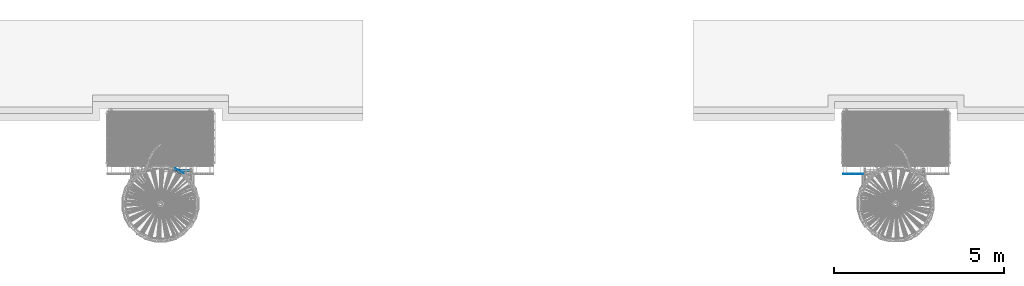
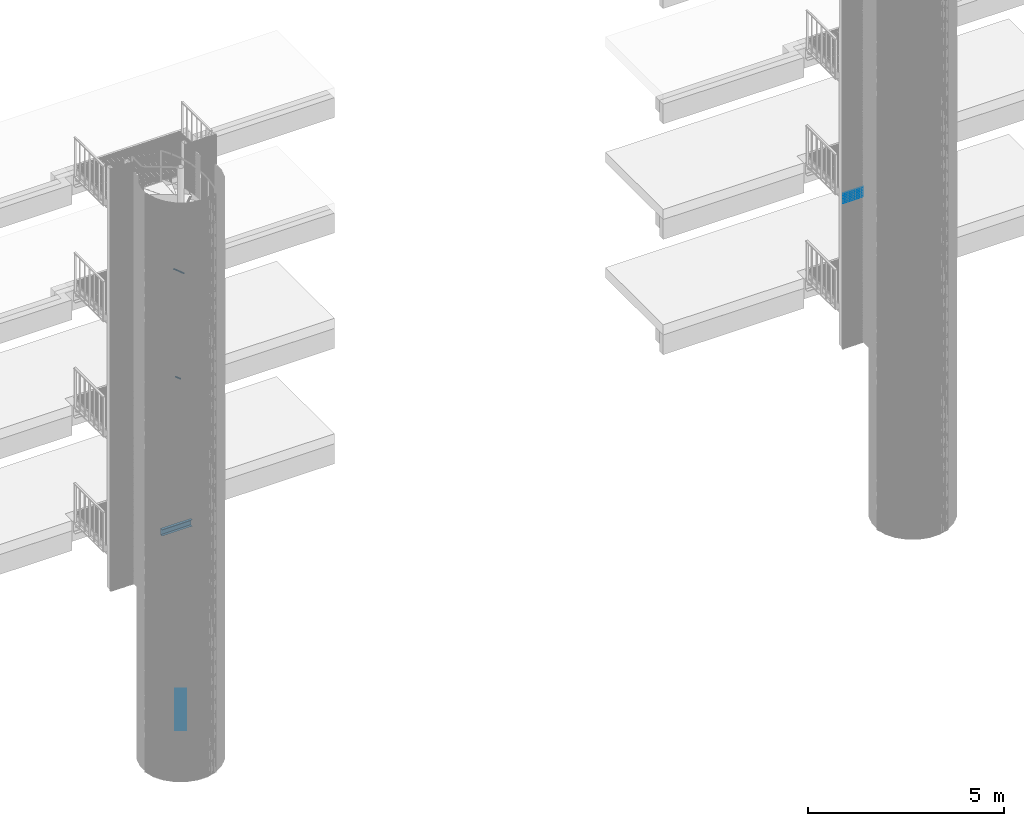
# One storey, part 321 of 1148: 52 beams, 2 members, 11 elements without a shape of their own.
"""IFC2X3 building model written with IfcOpenShell, lengths in millimetres."""

from ifc_helpers import new_model, entity, si_unit, frame, origin_with_axes, origin_2d_with_axis, place, context, subcontext, project, spatial, rectangle, u_section, extrude, material, type_object, element, aggregate, save


model = new_model("IFC2X3")

# Units and contexts
model_context = context("Model", 3, precision=1e-05, world=origin_with_axes())
body_context = subcontext(model_context, "Body", "Model", "MODEL_VIEW")
ifc_project = project(units=[si_unit("LENGTHUNIT", "METRE", prefix="MILLI"), si_unit("AREAUNIT", "SQUARE_METRE"), si_unit("VOLUMEUNIT", "CUBIC_METRE"), si_unit("MASSUNIT", "GRAM", prefix="KILO"), si_unit("TIMEUNIT", "SECOND"), si_unit("PLANEANGLEUNIT", "RADIAN"), si_unit("SOLIDANGLEUNIT", "STERADIAN"), si_unit("THERMODYNAMICTEMPERATUREUNIT", "DEGREE_CELSIUS"), si_unit("LUMINOUSINTENSITYUNIT", "LUMEN")], contexts=[model_context])

# Site, building, storey
site_placement = place(None, origin_with_axes())
site = spatial("IfcSite", under=ifc_project, at=site_placement, Name="Undefined", CompositionType="ELEMENT")
building_placement = place(site_placement, origin_with_axes())
building = spatial("IfcBuilding", under=site, at=building_placement, Name="Undefined", CompositionType="ELEMENT")
storey_placement = place(building_placement, origin_with_axes())
storey = spatial("IfcBuildingStorey", under=building, at=storey_placement, Name="Undefined", CompositionType="ELEMENT", Elevation=0.0)

# Assembly, beam
assembly_1_placement = place(storey_placement, origin_with_axes())
assembly_1 = element("IfcElementAssembly", 1, at=assembly_1_placement, inside=storey, AssemblyPlace="NOTDEFINED", PredefinedType="NOTDEFINED")
ifc_material_1 = material(Name="STEEL/S235JR")
beam_type_1 = type_object("IfcBeamType", Name="PL2*10", PredefinedType="NOTDEFINED")
beam_1_placement = place(assembly_1_placement, frame((20647.930410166, 876.014689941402, 10004.998), z_axis=(0.0, -1.0, 0.0), x_axis=(-1.0, 0.0, 0.0)))
beam_1 = element("IfcBeam", 2, at=beam_1_placement, type_object=beam_type_1, material=ifc_material_1, Name="ENTRETOISE", context=body_context, shape_type="SweptSolid", body=[
    extrude(rectangle(XDim=2.0, YDim=10.0, at=origin_2d_with_axis()), frame((596.0, 0.0, 0.0), z_axis=(-1.0, 0.0, 0.0), x_axis=(0.0, -1.0, 0.0)), (0.0, 0.0, 1.0), 596.0),
])
aggregate(assembly_1, [beam_1])

assembly_2_placement = place(storey_placement, origin_with_axes())
assembly_2 = element("IfcElementAssembly", 3, at=assembly_2_placement, inside=storey, AssemblyPlace="NOTDEFINED", PredefinedType="NOTDEFINED")
beam_2_placement = place(assembly_2_placement, frame((20647.930410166, 876.014689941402, 9954.998), z_axis=(0.0, -1.0, 0.0), x_axis=(-1.0, 0.0, 0.0)))
beam_2 = element("IfcBeam", 4, at=beam_2_placement, type_object=beam_type_1, material=ifc_material_1, Name="ENTRETOISE", context=body_context, shape_type="SweptSolid", body=[
    extrude(rectangle(XDim=2.0, YDim=10.0, at=origin_2d_with_axis()), frame((596.0, 0.0, 0.0), z_axis=(-1.0, 0.0, 0.0), x_axis=(0.0, -1.0, 0.0)), (0.0, 0.0, 1.0), 596.0),
])
aggregate(assembly_2, [beam_2])

assembly_3_placement = place(storey_placement, origin_with_axes())
assembly_3 = element("IfcElementAssembly", 5, at=assembly_3_placement, inside=storey, AssemblyPlace="NOTDEFINED", PredefinedType="NOTDEFINED")
beam_3_placement = place(assembly_3_placement, frame((20647.930410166, 876.014689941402, 9904.998), z_axis=(0.0, -1.0, 0.0), x_axis=(-1.0, 0.0, 0.0)))
beam_3 = element("IfcBeam", 6, at=beam_3_placement, type_object=beam_type_1, material=ifc_material_1, Name="ENTRETOISE", context=body_context, shape_type="SweptSolid", body=[
    extrude(rectangle(XDim=2.0, YDim=10.0, at=origin_2d_with_axis()), frame((596.0, 0.0, 0.0), z_axis=(-1.0, 0.0, 0.0), x_axis=(0.0, -1.0, 0.0)), (0.0, 0.0, 1.0), 596.0),
])
aggregate(assembly_3, [beam_3])

assembly_4_placement = place(storey_placement, origin_with_axes())
assembly_4 = element("IfcElementAssembly", 7, at=assembly_4_placement, inside=storey, AssemblyPlace="NOTDEFINED", PredefinedType="NOTDEFINED")
beam_4_placement = place(assembly_4_placement, frame((20647.930410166, 876.014689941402, 9854.998), z_axis=(0.0, -1.0, 0.0), x_axis=(-1.0, 0.0, 0.0)))
beam_4 = element("IfcBeam", 8, at=beam_4_placement, type_object=beam_type_1, material=ifc_material_1, Name="ENTRETOISE", context=body_context, shape_type="SweptSolid", body=[
    extrude(rectangle(XDim=2.0, YDim=10.0, at=origin_2d_with_axis()), frame((596.0, 0.0, 0.0), z_axis=(-1.0, 0.0, 0.0), x_axis=(0.0, -1.0, 0.0)), (0.0, 0.0, 1.0), 596.0),
])
aggregate(assembly_4, [beam_4])

assembly_5_placement = place(storey_placement, origin_with_axes())
assembly_5 = element("IfcElementAssembly", 9, at=assembly_5_placement, inside=storey, AssemblyPlace="NOTDEFINED", PredefinedType="NOTDEFINED")
beam_5_placement = place(assembly_5_placement, frame((20647.930410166, 876.014689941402, 9804.998), z_axis=(0.0, -1.0, 0.0), x_axis=(-1.0, 0.0, 0.0)))
beam_5 = element("IfcBeam", 10, at=beam_5_placement, type_object=beam_type_1, material=ifc_material_1, Name="ENTRETOISE", context=body_context, shape_type="SweptSolid", body=[
    extrude(rectangle(XDim=2.0, YDim=10.0, at=origin_2d_with_axis()), frame((596.0, 0.0, 0.0), z_axis=(-1.0, 0.0, 0.0), x_axis=(0.0, -1.0, 0.0)), (0.0, 0.0, 1.0), 596.0),
])
aggregate(assembly_5, [beam_5])

assembly_6_placement = place(storey_placement, origin_with_axes())
assembly_6 = element("IfcElementAssembly", 11, at=assembly_6_placement, inside=storey, AssemblyPlace="NOTDEFINED", PredefinedType="NOTDEFINED")
beam_6_placement = place(assembly_6_placement, frame((20647.930410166, 876.014689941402, 9754.998), z_axis=(0.0, -1.0, 0.0), x_axis=(-1.0, 0.0, 0.0)))
beam_6 = element("IfcBeam", 12, at=beam_6_placement, type_object=beam_type_1, material=ifc_material_1, Name="ENTRETOISE", context=body_context, shape_type="SweptSolid", body=[
    extrude(rectangle(XDim=2.0, YDim=10.0, at=origin_2d_with_axis()), frame((596.0, 0.0, 0.0), z_axis=(-1.0, 0.0, 0.0), x_axis=(0.0, -1.0, 0.0)), (0.0, 0.0, 1.0), 596.0),
])
aggregate(assembly_6, [beam_6])

assembly_7_placement = place(storey_placement, origin_with_axes())
assembly_7 = element("IfcElementAssembly", 13, at=assembly_7_placement, inside=storey, AssemblyPlace="NOTDEFINED", PredefinedType="NOTDEFINED")
beam_7_placement = place(assembly_7_placement, frame((20647.930410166, 876.014689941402, 9704.998), z_axis=(0.0, -1.0, 0.0), x_axis=(-1.0, 0.0, 0.0)))
beam_7 = element("IfcBeam", 14, at=beam_7_placement, type_object=beam_type_1, material=ifc_material_1, Name="ENTRETOISE", context=body_context, shape_type="SweptSolid", body=[
    extrude(rectangle(XDim=2.0, YDim=10.0, at=origin_2d_with_axis()), frame((596.0, 0.0, 0.0), z_axis=(-1.0, 0.0, 0.0), x_axis=(0.0, -1.0, 0.0)), (0.0, 0.0, 1.0), 596.0),
])
aggregate(assembly_7, [beam_7])

# Assembly, beams
assembly_8_placement = place(storey_placement, origin_with_axes())
assembly_8 = element("IfcElementAssembly", 15, at=assembly_8_placement, inside=storey, Name="BORDURE", AssemblyPlace="NOTDEFINED", PredefinedType="NOTDEFINED")
beam_8_placement = place(assembly_8_placement, frame((676.248044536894, 895.303964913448, 1320.0), z_axis=(0.49999999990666, 0.866025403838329, 0.0), x_axis=(-0.866025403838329, 0.499999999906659, 0.0)))
beam_8 = element("IfcBeam", 16, at=beam_8_placement, type_object=beam_type_1, material=ifc_material_1, Name="ENTRETOISE", context=body_context, shape_type="SweptSolid", body=[
    extrude(rectangle(XDim=2.0, YDim=10.0, at=origin_2d_with_axis()), frame((275.999999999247, 9.09494701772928e-13, 1.53210777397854e-14), z_axis=(-1.0, 0.0, 0.0), x_axis=(0.0, -1.0, 0.0)), (0.0, 0.0, 1.0), 276.0),
])
beam_9_placement = place(assembly_8_placement, frame((676.248044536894, 895.303964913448, 1290.0), z_axis=(0.49999999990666, 0.866025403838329, 0.0), x_axis=(-0.866025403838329, 0.499999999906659, 0.0)))
beam_9 = element("IfcBeam", 17, at=beam_9_placement, type_object=beam_type_1, material=ifc_material_1, Name="ENTRETOISE", context=body_context, shape_type="SweptSolid", body=[
    extrude(rectangle(XDim=2.0, YDim=10.0, at=origin_2d_with_axis()), frame((275.999999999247, 9.09494701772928e-13, 1.53210777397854e-14), z_axis=(-1.0, 0.0, 0.0), x_axis=(0.0, -1.0, 0.0)), (0.0, 0.0, 1.0), 276.0),
])
beam_10_placement = place(assembly_8_placement, frame((676.248044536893, 895.303964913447, 1260.0), z_axis=(0.49999999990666, 0.866025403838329, 0.0), x_axis=(-0.866025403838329, 0.499999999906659, 0.0)))
beam_10 = element("IfcBeam", 18, at=beam_10_placement, type_object=beam_type_1, material=ifc_material_1, Name="ENTRETOISE", context=body_context, shape_type="SweptSolid", body=[
    extrude(rectangle(XDim=2.0, YDim=10.0, at=origin_2d_with_axis()), frame((275.999999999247, 9.09494701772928e-13, 1.53210777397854e-14), z_axis=(-1.0, 0.0, 0.0), x_axis=(0.0, -1.0, 0.0)), (0.0, 0.0, 1.0), 276.0),
])
beam_11_placement = place(assembly_8_placement, frame((676.248044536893, 895.303964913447, 1230.0), z_axis=(0.49999999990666, 0.866025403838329, 0.0), x_axis=(-0.866025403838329, 0.499999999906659, 0.0)))
beam_11 = element("IfcBeam", 19, at=beam_11_placement, type_object=beam_type_1, material=ifc_material_1, Name="ENTRETOISE", context=body_context, shape_type="SweptSolid", body=[
    extrude(rectangle(XDim=2.0, YDim=10.0, at=origin_2d_with_axis()), frame((275.999999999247, 9.09494701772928e-13, 1.53210777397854e-14), z_axis=(-1.0, 0.0, 0.0), x_axis=(0.0, -1.0, 0.0)), (0.0, 0.0, 1.0), 276.0),
])
beam_12_placement = place(assembly_8_placement, frame((676.248044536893, 895.303964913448, 1200.0), z_axis=(0.49999999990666, 0.866025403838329, 0.0), x_axis=(-0.866025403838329, 0.499999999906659, 0.0)))
beam_12 = element("IfcBeam", 20, at=beam_12_placement, type_object=beam_type_1, material=ifc_material_1, Name="ENTRETOISE", context=body_context, shape_type="SweptSolid", body=[
    extrude(rectangle(XDim=2.0, YDim=10.0, at=origin_2d_with_axis()), frame((275.999999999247, 9.09494701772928e-13, 1.53210777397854e-14), z_axis=(-1.0, 0.0, 0.0), x_axis=(0.0, -1.0, 0.0)), (0.0, 0.0, 1.0), 276.0),
])
beam_13_placement = place(assembly_8_placement, frame((676.248044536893, 895.303964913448, 1170.0), z_axis=(0.49999999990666, 0.866025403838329, 0.0), x_axis=(-0.866025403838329, 0.499999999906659, 0.0)))
beam_13 = element("IfcBeam", 21, at=beam_13_placement, type_object=beam_type_1, material=ifc_material_1, Name="ENTRETOISE", context=body_context, shape_type="SweptSolid", body=[
    extrude(rectangle(XDim=2.0, YDim=10.0, at=origin_2d_with_axis()), frame((275.999999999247, 9.09494701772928e-13, 1.53210777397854e-14), z_axis=(-1.0, 0.0, 0.0), x_axis=(0.0, -1.0, 0.0)), (0.0, 0.0, 1.0), 276.0),
])
beam_14_placement = place(assembly_8_placement, frame((676.248044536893, 895.303964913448, 1140.0), z_axis=(0.49999999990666, 0.866025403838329, 0.0), x_axis=(-0.866025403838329, 0.499999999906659, 0.0)))
beam_14 = element("IfcBeam", 22, at=beam_14_placement, type_object=beam_type_1, material=ifc_material_1, Name="ENTRETOISE", context=body_context, shape_type="SweptSolid", body=[
    extrude(rectangle(XDim=2.0, YDim=10.0, at=origin_2d_with_axis()), frame((275.999999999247, 9.09494701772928e-13, 1.53210777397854e-14), z_axis=(-1.0, 0.0, 0.0), x_axis=(0.0, -1.0, 0.0)), (0.0, 0.0, 1.0), 276.0),
])
beam_15_placement = place(assembly_8_placement, frame((676.248044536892, 895.303964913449, 719.999999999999), z_axis=(0.49999999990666, 0.866025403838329, 0.0), x_axis=(-0.866025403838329, 0.499999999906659, 0.0)))
beam_15 = element("IfcBeam", 23, at=beam_15_placement, type_object=beam_type_1, material=ifc_material_1, Name="ENTRETOISE", context=body_context, shape_type="SweptSolid", body=[
    extrude(rectangle(XDim=2.0, YDim=10.0, at=origin_2d_with_axis()), frame((275.999999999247, 9.09494701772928e-13, 1.53210777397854e-14), z_axis=(-1.0, 0.0, 0.0), x_axis=(0.0, -1.0, 0.0)), (0.0, 0.0, 1.0), 276.0),
])
beam_16_placement = place(assembly_8_placement, frame((676.248044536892, 895.303964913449, 689.999999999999), z_axis=(0.49999999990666, 0.866025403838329, 0.0), x_axis=(-0.866025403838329, 0.499999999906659, 0.0)))
beam_16 = element("IfcBeam", 24, at=beam_16_placement, type_object=beam_type_1, material=ifc_material_1, Name="ENTRETOISE", context=body_context, shape_type="SweptSolid", body=[
    extrude(rectangle(XDim=2.0, YDim=10.0, at=origin_2d_with_axis()), frame((275.999999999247, 9.09494701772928e-13, 1.53210777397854e-14), z_axis=(-1.0, 0.0, 0.0), x_axis=(0.0, -1.0, 0.0)), (0.0, 0.0, 1.0), 276.0),
])
beam_17_placement = place(assembly_8_placement, frame((676.248044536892, 895.303964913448, 749.999999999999), z_axis=(0.49999999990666, 0.866025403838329, 0.0), x_axis=(-0.866025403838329, 0.499999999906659, 0.0)))
beam_17 = element("IfcBeam", 25, at=beam_17_placement, type_object=beam_type_1, material=ifc_material_1, Name="ENTRETOISE", context=body_context, shape_type="SweptSolid", body=[
    extrude(rectangle(XDim=2.0, YDim=10.0, at=origin_2d_with_axis()), frame((275.999999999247, 9.09494701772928e-13, 1.53210777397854e-14), z_axis=(-1.0, 0.0, 0.0), x_axis=(0.0, -1.0, 0.0)), (0.0, 0.0, 1.0), 276.0),
])
beam_18_placement = place(assembly_8_placement, frame((676.248044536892, 895.303964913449, 659.999999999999), z_axis=(0.49999999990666, 0.866025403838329, 0.0), x_axis=(-0.866025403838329, 0.499999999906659, 0.0)))
beam_18 = element("IfcBeam", 26, at=beam_18_placement, type_object=beam_type_1, material=ifc_material_1, Name="ENTRETOISE", context=body_context, shape_type="SweptSolid", body=[
    extrude(rectangle(XDim=2.0, YDim=10.0, at=origin_2d_with_axis()), frame((275.999999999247, 9.09494701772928e-13, 1.53210777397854e-14), z_axis=(-1.0, 0.0, 0.0), x_axis=(0.0, -1.0, 0.0)), (0.0, 0.0, 1.0), 276.0),
])
beam_19_placement = place(assembly_8_placement, frame((676.248044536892, 895.303964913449, 629.999999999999), z_axis=(0.49999999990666, 0.866025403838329, 0.0), x_axis=(-0.866025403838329, 0.499999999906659, 0.0)))
beam_19 = element("IfcBeam", 27, at=beam_19_placement, type_object=beam_type_1, material=ifc_material_1, Name="ENTRETOISE", context=body_context, shape_type="SweptSolid", body=[
    extrude(rectangle(XDim=2.0, YDim=10.0, at=origin_2d_with_axis()), frame((275.999999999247, 9.09494701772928e-13, 1.53210777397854e-14), z_axis=(-1.0, 0.0, 0.0), x_axis=(0.0, -1.0, 0.0)), (0.0, 0.0, 1.0), 276.0),
])
beam_20_placement = place(assembly_8_placement, frame((676.248044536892, 895.303964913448, 779.999999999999), z_axis=(0.49999999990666, 0.866025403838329, 0.0), x_axis=(-0.866025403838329, 0.499999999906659, 0.0)))
beam_20 = element("IfcBeam", 28, at=beam_20_placement, type_object=beam_type_1, material=ifc_material_1, Name="ENTRETOISE", context=body_context, shape_type="SweptSolid", body=[
    extrude(rectangle(XDim=2.0, YDim=10.0, at=origin_2d_with_axis()), frame((275.999999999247, 9.09494701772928e-13, 1.53210777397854e-14), z_axis=(-1.0, 0.0, 0.0), x_axis=(0.0, -1.0, 0.0)), (0.0, 0.0, 1.0), 276.0),
])
beam_21_placement = place(assembly_8_placement, frame((676.248044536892, 895.303964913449, 599.999999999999), z_axis=(0.49999999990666, 0.866025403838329, 0.0), x_axis=(-0.866025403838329, 0.499999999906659, 0.0)))
beam_21 = element("IfcBeam", 29, at=beam_21_placement, type_object=beam_type_1, material=ifc_material_1, Name="ENTRETOISE", context=body_context, shape_type="SweptSolid", body=[
    extrude(rectangle(XDim=2.0, YDim=10.0, at=origin_2d_with_axis()), frame((275.999999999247, 9.09494701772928e-13, 1.53210777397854e-14), z_axis=(-1.0, 0.0, 0.0), x_axis=(0.0, -1.0, 0.0)), (0.0, 0.0, 1.0), 276.0),
])
beam_22_placement = place(assembly_8_placement, frame((676.248044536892, 895.303964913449, 809.999999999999), z_axis=(0.49999999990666, 0.866025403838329, 0.0), x_axis=(-0.866025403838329, 0.499999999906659, 0.0)))
beam_22 = element("IfcBeam", 30, at=beam_22_placement, type_object=beam_type_1, material=ifc_material_1, Name="ENTRETOISE", context=body_context, shape_type="SweptSolid", body=[
    extrude(rectangle(XDim=2.0, YDim=10.0, at=origin_2d_with_axis()), frame((275.999999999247, 9.09494701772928e-13, 1.53210777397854e-14), z_axis=(-1.0, 0.0, 0.0), x_axis=(0.0, -1.0, 0.0)), (0.0, 0.0, 1.0), 276.0),
])
beam_23_placement = place(assembly_8_placement, frame((676.248044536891, 895.303964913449, 569.999999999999), z_axis=(0.49999999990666, 0.866025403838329, 0.0), x_axis=(-0.866025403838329, 0.499999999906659, 0.0)))
beam_23 = element("IfcBeam", 31, at=beam_23_placement, type_object=beam_type_1, material=ifc_material_1, Name="ENTRETOISE", context=body_context, shape_type="SweptSolid", body=[
    extrude(rectangle(XDim=2.0, YDim=10.0, at=origin_2d_with_axis()), frame((275.999999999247, 9.09494701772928e-13, 1.53210777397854e-14), z_axis=(-1.0, 0.0, 0.0), x_axis=(0.0, -1.0, 0.0)), (0.0, 0.0, 1.0), 276.0),
])
beam_24_placement = place(assembly_8_placement, frame((676.248044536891, 895.303964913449, 539.999999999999), z_axis=(0.49999999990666, 0.866025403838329, 0.0), x_axis=(-0.866025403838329, 0.499999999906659, 0.0)))
beam_24 = element("IfcBeam", 32, at=beam_24_placement, type_object=beam_type_1, material=ifc_material_1, Name="ENTRETOISE", context=body_context, shape_type="SweptSolid", body=[
    extrude(rectangle(XDim=2.0, YDim=10.0, at=origin_2d_with_axis()), frame((275.999999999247, 9.09494701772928e-13, 1.53210777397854e-14), z_axis=(-1.0, 0.0, 0.0), x_axis=(0.0, -1.0, 0.0)), (0.0, 0.0, 1.0), 276.0),
])
beam_25_placement = place(assembly_8_placement, frame((676.248044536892, 895.303964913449, 839.999999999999), z_axis=(0.49999999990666, 0.866025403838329, 0.0), x_axis=(-0.866025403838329, 0.499999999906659, 0.0)))
beam_25 = element("IfcBeam", 33, at=beam_25_placement, type_object=beam_type_1, material=ifc_material_1, Name="ENTRETOISE", context=body_context, shape_type="SweptSolid", body=[
    extrude(rectangle(XDim=2.0, YDim=10.0, at=origin_2d_with_axis()), frame((275.999999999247, 9.09494701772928e-13, 1.53210777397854e-14), z_axis=(-1.0, 0.0, 0.0), x_axis=(0.0, -1.0, 0.0)), (0.0, 0.0, 1.0), 276.0),
])
beam_26_placement = place(assembly_8_placement, frame((676.248044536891, 895.303964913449, 509.999999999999), z_axis=(0.49999999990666, 0.866025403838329, 0.0), x_axis=(-0.866025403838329, 0.499999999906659, 0.0)))
beam_26 = element("IfcBeam", 34, at=beam_26_placement, type_object=beam_type_1, material=ifc_material_1, Name="ENTRETOISE", context=body_context, shape_type="SweptSolid", body=[
    extrude(rectangle(XDim=2.0, YDim=10.0, at=origin_2d_with_axis()), frame((275.999999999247, 9.09494701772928e-13, 1.53210777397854e-14), z_axis=(-1.0, 0.0, 0.0), x_axis=(0.0, -1.0, 0.0)), (0.0, 0.0, 1.0), 276.0),
])
beam_27_placement = place(assembly_8_placement, frame((676.248044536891, 895.303964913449, 479.999999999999), z_axis=(0.49999999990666, 0.866025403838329, 0.0), x_axis=(-0.866025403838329, 0.499999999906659, 0.0)))
beam_27 = element("IfcBeam", 35, at=beam_27_placement, type_object=beam_type_1, material=ifc_material_1, Name="ENTRETOISE", context=body_context, shape_type="SweptSolid", body=[
    extrude(rectangle(XDim=2.0, YDim=10.0, at=origin_2d_with_axis()), frame((275.999999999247, 9.09494701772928e-13, 1.53210777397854e-14), z_axis=(-1.0, 0.0, 0.0), x_axis=(0.0, -1.0, 0.0)), (0.0, 0.0, 1.0), 276.0),
])
beam_28_placement = place(assembly_8_placement, frame((676.248044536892, 895.303964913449, 869.999999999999), z_axis=(0.49999999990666, 0.866025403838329, 0.0), x_axis=(-0.866025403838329, 0.499999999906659, 0.0)))
beam_28 = element("IfcBeam", 36, at=beam_28_placement, type_object=beam_type_1, material=ifc_material_1, Name="ENTRETOISE", context=body_context, shape_type="SweptSolid", body=[
    extrude(rectangle(XDim=2.0, YDim=10.0, at=origin_2d_with_axis()), frame((275.999999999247, 9.09494701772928e-13, 1.53210777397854e-14), z_axis=(-1.0, 0.0, 0.0), x_axis=(0.0, -1.0, 0.0)), (0.0, 0.0, 1.0), 276.0),
])
beam_29_placement = place(assembly_8_placement, frame((676.248044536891, 895.303964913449, 449.999999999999), z_axis=(0.49999999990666, 0.866025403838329, 0.0), x_axis=(-0.866025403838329, 0.499999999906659, 0.0)))
beam_29 = element("IfcBeam", 37, at=beam_29_placement, type_object=beam_type_1, material=ifc_material_1, Name="ENTRETOISE", context=body_context, shape_type="SweptSolid", body=[
    extrude(rectangle(XDim=2.0, YDim=10.0, at=origin_2d_with_axis()), frame((275.999999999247, 9.09494701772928e-13, 1.53210777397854e-14), z_axis=(-1.0, 0.0, 0.0), x_axis=(0.0, -1.0, 0.0)), (0.0, 0.0, 1.0), 276.0),
])
beam_30_placement = place(assembly_8_placement, frame((676.248044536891, 895.303964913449, 419.999999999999), z_axis=(0.49999999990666, 0.866025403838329, 0.0), x_axis=(-0.866025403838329, 0.499999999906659, 0.0)))
beam_30 = element("IfcBeam", 38, at=beam_30_placement, type_object=beam_type_1, material=ifc_material_1, Name="ENTRETOISE", context=body_context, shape_type="SweptSolid", body=[
    extrude(rectangle(XDim=2.0, YDim=10.0, at=origin_2d_with_axis()), frame((275.999999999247, 9.09494701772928e-13, 1.53210777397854e-14), z_axis=(-1.0, 0.0, 0.0), x_axis=(0.0, -1.0, 0.0)), (0.0, 0.0, 1.0), 276.0),
])
beam_31_placement = place(assembly_8_placement, frame((676.248044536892, 895.303964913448, 899.999999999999), z_axis=(0.49999999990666, 0.866025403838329, 0.0), x_axis=(-0.866025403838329, 0.499999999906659, 0.0)))
beam_31 = element("IfcBeam", 39, at=beam_31_placement, type_object=beam_type_1, material=ifc_material_1, Name="ENTRETOISE", context=body_context, shape_type="SweptSolid", body=[
    extrude(rectangle(XDim=2.0, YDim=10.0, at=origin_2d_with_axis()), frame((275.999999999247, 9.09494701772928e-13, 1.53210777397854e-14), z_axis=(-1.0, 0.0, 0.0), x_axis=(0.0, -1.0, 0.0)), (0.0, 0.0, 1.0), 276.0),
])
beam_32_placement = place(assembly_8_placement, frame((676.248044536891, 895.30396491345, 389.999999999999), z_axis=(0.49999999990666, 0.866025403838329, 0.0), x_axis=(-0.866025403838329, 0.499999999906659, 0.0)))
beam_32 = element("IfcBeam", 40, at=beam_32_placement, type_object=beam_type_1, material=ifc_material_1, Name="ENTRETOISE", context=body_context, shape_type="SweptSolid", body=[
    extrude(rectangle(XDim=2.0, YDim=10.0, at=origin_2d_with_axis()), frame((275.999999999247, 9.09494701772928e-13, 1.53210777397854e-14), z_axis=(-1.0, 0.0, 0.0), x_axis=(0.0, -1.0, 0.0)), (0.0, 0.0, 1.0), 276.0),
])
beam_33_placement = place(assembly_8_placement, frame((676.248044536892, 895.303964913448, 929.999999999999), z_axis=(0.49999999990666, 0.866025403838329, 0.0), x_axis=(-0.866025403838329, 0.499999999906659, 0.0)))
beam_33 = element("IfcBeam", 41, at=beam_33_placement, type_object=beam_type_1, material=ifc_material_1, Name="ENTRETOISE", context=body_context, shape_type="SweptSolid", body=[
    extrude(rectangle(XDim=2.0, YDim=10.0, at=origin_2d_with_axis()), frame((275.999999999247, 9.09494701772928e-13, 1.53210777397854e-14), z_axis=(-1.0, 0.0, 0.0), x_axis=(0.0, -1.0, 0.0)), (0.0, 0.0, 1.0), 276.0),
])
beam_34_placement = place(assembly_8_placement, frame((676.248044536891, 895.30396491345, 359.999999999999), z_axis=(0.49999999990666, 0.866025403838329, 0.0), x_axis=(-0.866025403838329, 0.499999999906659, 0.0)))
beam_34 = element("IfcBeam", 42, at=beam_34_placement, type_object=beam_type_1, material=ifc_material_1, Name="ENTRETOISE", context=body_context, shape_type="SweptSolid", body=[
    extrude(rectangle(XDim=2.0, YDim=10.0, at=origin_2d_with_axis()), frame((275.999999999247, 9.09494701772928e-13, 1.53210777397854e-14), z_axis=(-1.0, 0.0, 0.0), x_axis=(0.0, -1.0, 0.0)), (0.0, 0.0, 1.0), 276.0),
])
beam_35_placement = place(assembly_8_placement, frame((676.248044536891, 895.303964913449, 329.999999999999), z_axis=(0.49999999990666, 0.866025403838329, 0.0), x_axis=(-0.866025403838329, 0.499999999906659, 0.0)))
beam_35 = element("IfcBeam", 43, at=beam_35_placement, type_object=beam_type_1, material=ifc_material_1, Name="ENTRETOISE", context=body_context, shape_type="SweptSolid", body=[
    extrude(rectangle(XDim=2.0, YDim=10.0, at=origin_2d_with_axis()), frame((275.999999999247, 9.09494701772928e-13, 1.53210777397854e-14), z_axis=(-1.0, 0.0, 0.0), x_axis=(0.0, -1.0, 0.0)), (0.0, 0.0, 1.0), 276.0),
])
beam_36_placement = place(assembly_8_placement, frame((676.248044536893, 895.303964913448, 959.999999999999), z_axis=(0.49999999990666, 0.866025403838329, 0.0), x_axis=(-0.866025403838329, 0.499999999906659, 0.0)))
beam_36 = element("IfcBeam", 44, at=beam_36_placement, type_object=beam_type_1, material=ifc_material_1, Name="ENTRETOISE", context=body_context, shape_type="SweptSolid", body=[
    extrude(rectangle(XDim=2.0, YDim=10.0, at=origin_2d_with_axis()), frame((275.999999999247, 9.09494701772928e-13, 1.53210777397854e-14), z_axis=(-1.0, 0.0, 0.0), x_axis=(0.0, -1.0, 0.0)), (0.0, 0.0, 1.0), 276.0),
])
beam_37_placement = place(assembly_8_placement, frame((676.248044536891, 895.303964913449, 299.999999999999), z_axis=(0.49999999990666, 0.866025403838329, 0.0), x_axis=(-0.866025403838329, 0.499999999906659, 0.0)))
beam_37 = element("IfcBeam", 45, at=beam_37_placement, type_object=beam_type_1, material=ifc_material_1, Name="ENTRETOISE", context=body_context, shape_type="SweptSolid", body=[
    extrude(rectangle(XDim=2.0, YDim=10.0, at=origin_2d_with_axis()), frame((275.999999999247, 9.09494701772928e-13, 1.53210777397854e-14), z_axis=(-1.0, 0.0, 0.0), x_axis=(0.0, -1.0, 0.0)), (0.0, 0.0, 1.0), 276.0),
])
beam_38_placement = place(assembly_8_placement, frame((676.24804453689, 895.303964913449, 269.999999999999), z_axis=(0.49999999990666, 0.866025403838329, 0.0), x_axis=(-0.866025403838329, 0.499999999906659, 0.0)))
beam_38 = element("IfcBeam", 46, at=beam_38_placement, type_object=beam_type_1, material=ifc_material_1, Name="ENTRETOISE", context=body_context, shape_type="SweptSolid", body=[
    extrude(rectangle(XDim=2.0, YDim=10.0, at=origin_2d_with_axis()), frame((275.999999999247, 9.09494701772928e-13, 1.53210777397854e-14), z_axis=(-1.0, 0.0, 0.0), x_axis=(0.0, -1.0, 0.0)), (0.0, 0.0, 1.0), 276.0),
])
beam_39_placement = place(assembly_8_placement, frame((676.248044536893, 895.303964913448, 989.999999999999), z_axis=(0.49999999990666, 0.866025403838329, 0.0), x_axis=(-0.866025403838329, 0.499999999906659, 0.0)))
beam_39 = element("IfcBeam", 47, at=beam_39_placement, type_object=beam_type_1, material=ifc_material_1, Name="ENTRETOISE", context=body_context, shape_type="SweptSolid", body=[
    extrude(rectangle(XDim=2.0, YDim=10.0, at=origin_2d_with_axis()), frame((275.999999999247, 9.09494701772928e-13, 1.53210777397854e-14), z_axis=(-1.0, 0.0, 0.0), x_axis=(0.0, -1.0, 0.0)), (0.0, 0.0, 1.0), 276.0),
])
beam_40_placement = place(assembly_8_placement, frame((676.24804453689, 895.30396491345, 239.999999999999), z_axis=(0.49999999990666, 0.866025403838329, 0.0), x_axis=(-0.866025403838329, 0.499999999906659, 0.0)))
beam_40 = element("IfcBeam", 48, at=beam_40_placement, type_object=beam_type_1, material=ifc_material_1, Name="ENTRETOISE", context=body_context, shape_type="SweptSolid", body=[
    extrude(rectangle(XDim=2.0, YDim=10.0, at=origin_2d_with_axis()), frame((275.999999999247, 9.09494701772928e-13, 1.53210777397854e-14), z_axis=(-1.0, 0.0, 0.0), x_axis=(0.0, -1.0, 0.0)), (0.0, 0.0, 1.0), 276.0),
])
beam_41_placement = place(assembly_8_placement, frame((676.248044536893, 895.303964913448, 1020.0), z_axis=(0.49999999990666, 0.866025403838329, 0.0), x_axis=(-0.866025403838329, 0.499999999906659, 0.0)))
beam_41 = element("IfcBeam", 49, at=beam_41_placement, type_object=beam_type_1, material=ifc_material_1, Name="ENTRETOISE", context=body_context, shape_type="SweptSolid", body=[
    extrude(rectangle(XDim=2.0, YDim=10.0, at=origin_2d_with_axis()), frame((275.999999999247, 9.09494701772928e-13, 1.53210777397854e-14), z_axis=(-1.0, 0.0, 0.0), x_axis=(0.0, -1.0, 0.0)), (0.0, 0.0, 1.0), 276.0),
])
beam_42_placement = place(assembly_8_placement, frame((676.24804453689, 895.30396491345, 209.999999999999), z_axis=(0.49999999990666, 0.866025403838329, 0.0), x_axis=(-0.866025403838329, 0.499999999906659, 0.0)))
beam_42 = element("IfcBeam", 50, at=beam_42_placement, type_object=beam_type_1, material=ifc_material_1, Name="ENTRETOISE", context=body_context, shape_type="SweptSolid", body=[
    extrude(rectangle(XDim=2.0, YDim=10.0, at=origin_2d_with_axis()), frame((275.999999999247, 9.09494701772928e-13, 1.53210777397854e-14), z_axis=(-1.0, 0.0, 0.0), x_axis=(0.0, -1.0, 0.0)), (0.0, 0.0, 1.0), 276.0),
])
beam_43_placement = place(assembly_8_placement, frame((676.24804453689, 895.30396491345, 179.999999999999), z_axis=(0.49999999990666, 0.866025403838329, 0.0), x_axis=(-0.866025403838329, 0.499999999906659, 0.0)))
beam_43 = element("IfcBeam", 51, at=beam_43_placement, type_object=beam_type_1, material=ifc_material_1, Name="ENTRETOISE", context=body_context, shape_type="SweptSolid", body=[
    extrude(rectangle(XDim=2.0, YDim=10.0, at=origin_2d_with_axis()), frame((275.999999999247, 9.09494701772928e-13, 1.53210777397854e-14), z_axis=(-1.0, 0.0, 0.0), x_axis=(0.0, -1.0, 0.0)), (0.0, 0.0, 1.0), 276.0),
])
beam_44_placement = place(assembly_8_placement, frame((676.248044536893, 895.303964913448, 1050.0), z_axis=(0.49999999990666, 0.866025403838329, 0.0), x_axis=(-0.866025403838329, 0.499999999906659, 0.0)))
beam_44 = element("IfcBeam", 52, at=beam_44_placement, type_object=beam_type_1, material=ifc_material_1, Name="ENTRETOISE", context=body_context, shape_type="SweptSolid", body=[
    extrude(rectangle(XDim=2.0, YDim=10.0, at=origin_2d_with_axis()), frame((275.999999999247, 9.09494701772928e-13, 1.53210777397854e-14), z_axis=(-1.0, 0.0, 0.0), x_axis=(0.0, -1.0, 0.0)), (0.0, 0.0, 1.0), 276.0),
])
beam_45_placement = place(assembly_8_placement, frame((676.24804453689, 895.30396491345, 149.999999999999), z_axis=(0.49999999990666, 0.866025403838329, 0.0), x_axis=(-0.866025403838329, 0.499999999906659, 0.0)))
beam_45 = element("IfcBeam", 53, at=beam_45_placement, type_object=beam_type_1, material=ifc_material_1, Name="ENTRETOISE", context=body_context, shape_type="SweptSolid", body=[
    extrude(rectangle(XDim=2.0, YDim=10.0, at=origin_2d_with_axis()), frame((275.999999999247, 9.09494701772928e-13, 1.53210777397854e-14), z_axis=(-1.0, 0.0, 0.0), x_axis=(0.0, -1.0, 0.0)), (0.0, 0.0, 1.0), 276.0),
])
beam_46_placement = place(assembly_8_placement, frame((676.24804453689, 895.30396491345, 119.999999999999), z_axis=(0.49999999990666, 0.866025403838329, 0.0), x_axis=(-0.866025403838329, 0.499999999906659, 0.0)))
beam_46 = element("IfcBeam", 54, at=beam_46_placement, type_object=beam_type_1, material=ifc_material_1, Name="ENTRETOISE", context=body_context, shape_type="SweptSolid", body=[
    extrude(rectangle(XDim=2.0, YDim=10.0, at=origin_2d_with_axis()), frame((275.999999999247, 9.09494701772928e-13, 1.53210777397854e-14), z_axis=(-1.0, 0.0, 0.0), x_axis=(0.0, -1.0, 0.0)), (0.0, 0.0, 1.0), 276.0),
])
beam_47_placement = place(assembly_8_placement, frame((676.248044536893, 895.303964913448, 1080.0), z_axis=(0.49999999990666, 0.866025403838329, 0.0), x_axis=(-0.866025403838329, 0.499999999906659, 0.0)))
beam_47 = element("IfcBeam", 55, at=beam_47_placement, type_object=beam_type_1, material=ifc_material_1, Name="ENTRETOISE", context=body_context, shape_type="SweptSolid", body=[
    extrude(rectangle(XDim=2.0, YDim=10.0, at=origin_2d_with_axis()), frame((275.999999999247, 9.09494701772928e-13, 1.53210777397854e-14), z_axis=(-1.0, 0.0, 0.0), x_axis=(0.0, -1.0, 0.0)), (0.0, 0.0, 1.0), 276.0),
])
beam_48_placement = place(assembly_8_placement, frame((676.24804453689, 895.30396491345, 89.9999999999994), z_axis=(0.49999999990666, 0.866025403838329, 0.0), x_axis=(-0.866025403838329, 0.499999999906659, 0.0)))
beam_48 = element("IfcBeam", 56, at=beam_48_placement, type_object=beam_type_1, material=ifc_material_1, Name="ENTRETOISE", context=body_context, shape_type="SweptSolid", body=[
    extrude(rectangle(XDim=2.0, YDim=10.0, at=origin_2d_with_axis()), frame((275.999999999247, 9.09494701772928e-13, 1.53210777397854e-14), z_axis=(-1.0, 0.0, 0.0), x_axis=(0.0, -1.0, 0.0)), (0.0, 0.0, 1.0), 276.0),
])
beam_49_placement = place(assembly_8_placement, frame((676.24804453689, 895.30396491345, 59.9999999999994), z_axis=(0.49999999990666, 0.866025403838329, 0.0), x_axis=(-0.866025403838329, 0.499999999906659, 0.0)))
beam_49 = element("IfcBeam", 57, at=beam_49_placement, type_object=beam_type_1, material=ifc_material_1, Name="ENTRETOISE", context=body_context, shape_type="SweptSolid", body=[
    extrude(rectangle(XDim=2.0, YDim=10.0, at=origin_2d_with_axis()), frame((275.999999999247, 9.09494701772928e-13, 1.53210777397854e-14), z_axis=(-1.0, 0.0, 0.0), x_axis=(0.0, -1.0, 0.0)), (0.0, 0.0, 1.0), 276.0),
])
beam_50_placement = place(assembly_8_placement, frame((676.248044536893, 895.303964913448, 1110.0), z_axis=(0.49999999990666, 0.866025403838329, 0.0), x_axis=(-0.866025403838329, 0.499999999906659, 0.0)))
beam_50 = element("IfcBeam", 58, at=beam_50_placement, type_object=beam_type_1, material=ifc_material_1, Name="ENTRETOISE", context=body_context, shape_type="SweptSolid", body=[
    extrude(rectangle(XDim=2.0, YDim=10.0, at=origin_2d_with_axis()), frame((275.999999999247, 9.09494701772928e-13, 1.53210777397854e-14), z_axis=(-1.0, 0.0, 0.0), x_axis=(0.0, -1.0, 0.0)), (0.0, 0.0, 1.0), 276.0),
])
beam_51_placement = place(assembly_8_placement, frame((676.248044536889, 895.30396491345, 29.9999999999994), z_axis=(0.49999999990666, 0.866025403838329, 0.0), x_axis=(-0.866025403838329, 0.499999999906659, 0.0)))
beam_51 = element("IfcBeam", 59, at=beam_51_placement, type_object=beam_type_1, material=ifc_material_1, Name="ENTRETOISE", context=body_context, shape_type="SweptSolid", body=[
    extrude(rectangle(XDim=2.0, YDim=10.0, at=origin_2d_with_axis()), frame((275.999999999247, 9.09494701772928e-13, 1.53210777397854e-14), z_axis=(-1.0, 0.0, 0.0), x_axis=(0.0, -1.0, 0.0)), (0.0, 0.0, 1.0), 276.0),
])
aggregate(assembly_8, [beam_8, beam_9, beam_10, beam_11, beam_12, beam_13, beam_14, beam_15, beam_16, beam_17, beam_18, beam_19, beam_20, beam_21, beam_22, beam_23, beam_24, beam_25, beam_26, beam_27, beam_28, beam_29, beam_30, beam_31, beam_32, beam_33, beam_34, beam_35, beam_36, beam_37, beam_38, beam_39, beam_40, beam_41, beam_42, beam_43, beam_44, beam_45, beam_46, beam_47, beam_48, beam_49, beam_50, beam_51])

# Assembly, member
assembly_9_placement = place(storey_placement, origin_with_axes())
assembly_9 = element("IfcElementAssembly", 60, at=assembly_9_placement, inside=storey, Name="MONTANT", AssemblyPlace="NOTDEFINED", PredefinedType="NOTDEFINED")
member_type = type_object("IfcMemberType", Name="TUBE-42.4*3.2", PredefinedType="NOTDEFINED")
member_1_placement = place(assembly_9_placement, frame((527.000000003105, 912.790775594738, 11033.4399999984), z_axis=(0.444667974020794, 0.895695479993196, -1.19143805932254e-11), x_axis=(-0.784720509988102, 0.389574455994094, 0.482125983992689)))
member_1 = element("IfcMember", 61, at=member_1_placement, type_object=member_type, material=ifc_material_1, Name="MAIN_COURANTE", context=body_context, shape_type="SweptSolid", body=[
    entity("IfcRevolvedAreaSolid", entity("IfcCircleHollowProfileDef", "AREA", None, entity("IfcAxis2Placement2D", entity("IfcCartesianPoint", [0.0, 0.0]), entity("IfcDirection", [1.0, 0.0])), 21.200000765, 3.200000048), entity("IfcAxis2Placement3D", entity("IfcCartesianPoint", [158.775926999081, 2.8421709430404e-14, 1.62688591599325e-15]), entity("IfcDirection", [-0.999290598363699, 1.69106204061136e-18, 0.0376603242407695]), entity("IfcDirection", [0.0, -1.0, 0.0])), entity("IfcAxis1Placement", entity("IfcCartesianPoint", [0.0, -2108.0, 0.0]), entity("IfcDirection", [1.0, 0.0, 0.0])), 0.0753384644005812),
])
aggregate(assembly_9, [member_1])

assembly_10_placement = place(storey_placement, origin_with_axes())
assembly_10 = element("IfcElementAssembly", 62, at=assembly_10_placement, inside=storey, Name="MONTANT", AssemblyPlace="NOTDEFINED", PredefinedType="NOTDEFINED")
member_2_placement = place(assembly_10_placement, frame((604.549563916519, 863.38625468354, 14320.3999999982), z_axis=(0.461748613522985, 0.887010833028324, -2.56448402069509e-10), x_axis=(-0.770994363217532, 0.40135426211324, 0.494451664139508)))
member_2 = element("IfcMember", 63, at=member_2_placement, type_object=member_type, material=ifc_material_1, Name="MAIN_COURANTE", context=body_context, shape_type="SweptSolid", body=[
    entity("IfcRevolvedAreaSolid", entity("IfcCircleHollowProfileDef", "AREA", None, entity("IfcAxis2Placement2D", entity("IfcCartesianPoint", [0.0, 0.0]), entity("IfcDirection", [1.0, 0.0])), 21.200000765, 3.200000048), entity("IfcAxis2Placement3D", entity("IfcCartesianPoint", [316.552681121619, 9.09494701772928e-13, -1.82569453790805e-12]), entity("IfcDirection", [-0.997177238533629, 2.1263748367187e-18, 0.0750836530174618]), entity("IfcDirection", [0.0, -1.0, 0.0])), entity("IfcAxis1Placement", entity("IfcCartesianPoint", [0.0, -2108.0, 0.0]), entity("IfcDirection", [1.0, 0.0, 0.0])), 0.150308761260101),
])
aggregate(assembly_10, [member_2])

# Assembly, beam
assembly_11_placement = place(storey_placement, origin_with_axes())
assembly_11 = element("IfcElementAssembly", 64, at=assembly_11_placement, inside=storey, Name="TRAVERSE", AssemblyPlace="NOTDEFINED", PredefinedType="NOTDEFINED")
ifc_material_2 = material(Name="STEEL/S275JR")
beam_type_2 = type_object("IfcBeamType", Name="UPF-200*80*4", PredefinedType="NOTDEFINED")
beam_52_placement = place(assembly_11_placement, frame((891.963534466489, 990.016164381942, 6385.8400016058), z_axis=(-0.000179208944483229, -1.40999956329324e-07, -0.999999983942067), x_axis=(-0.999999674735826, -0.000786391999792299, 0.000179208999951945)))
beam_52 = element("IfcBeam", 65, at=beam_52_placement, type_object=beam_type_2, material=ifc_material_2, Name="TRAVERSE", context=body_context, shape_type="SweptSolid", body=[
    extrude(u_section(Depth=200.0, FlangeWidth=80.0, WebThickness=4.0, FlangeThickness=4.0, at=origin_2d_with_axis()), frame((892.812628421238, 1.78184733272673e-16, 3.63797880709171e-12), z_axis=(-1.0, 0.0, 0.0), x_axis=(0.0, -1.0, 0.0)), (0.0, 0.0, 1.0), 892.81),
])
aggregate(assembly_11, [beam_52])

save(model, "model.ifc")
